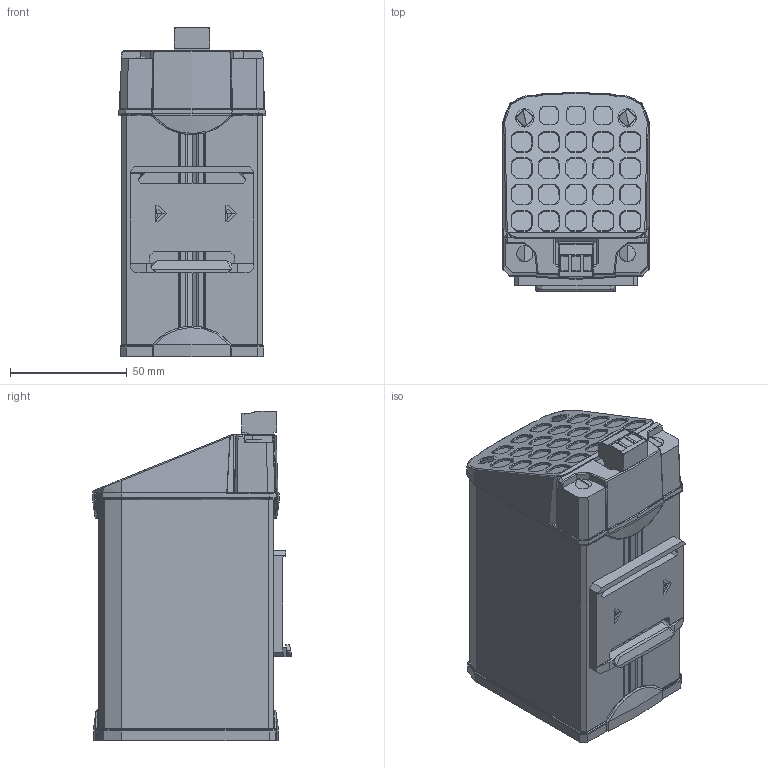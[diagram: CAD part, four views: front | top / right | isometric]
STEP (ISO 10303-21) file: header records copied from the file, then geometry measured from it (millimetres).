
FILE_DESCRIPTION(/* description */ (''),/* implementation_level */ '2;1');
FILE_NAME(/* name */ 'HTM045-60-80-S080X-S100X-1',/* time_stamp */ '2026-02-06T08:42:38+01:00',/* author */ (''),/* organization */ (''),/* preprocessor_version */ 'ST-DEVELOPER v16.5',/* originating_system */ 'Rhino 7.38',/* authorisation */ '');
FILE_SCHEMA (('AUTOMOTIVE_DESIGN'));
Length unit declared in the file: millimetre
Products named in the file (13): Document; HTM045-60-80-1; Base plastica CLIP_CLIP-01 semplificata; Tappo Plastico di estremità_tappo semplificato; Rivetto; Vite ST3.5_semplificata; Profilo dissipatore deformato_Lung.100mm semplificato; Vite ST3.5x38_semplificata; DT-04537DSI_Metallica semplificata; Copertura Alluminio_Lungh. L100 mm semplificata2; 2EDGKF-5.0-03P-04_semplificata; DT-04539DSI_Semplificata; Copertura Alluminio_Lungh. L100 mm semplificata
Assembly tree (19 placements, depth 3):
  Document
    HTM045-60-80-1
      Base plastica CLIP_CLIP-01 semplificata
      Tappo Plastico di estremità_tappo semplificato
      Rivetto  x2
      Vite ST3.5_semplificata  x6
      Profilo dissipatore deformato_Lung.100mm semplificato
      Vite ST3.5x38_semplificata  x2
      DT-04537DSI_Metallica semplificata
      Copertura Alluminio_Lungh. L100 mm semplificata2
      2EDGKF-5.0-03P-04_semplificata
      DT-04539DSI_Semplificata
      Copertura Alluminio_Lungh. L100 mm semplificata
Bounding box: 62.7 x 85.28 x 141 mm (x, y, z)
Volume: 550997.1 mm3; surface area: 105617.1 mm2
Topology: 18 solids, 18 shells, 1254 faces, 3170 edges, 1994 vertices
Faces by surface type: plane 487, bspline 480, cylinder 287
Entity records: 45033 total; most frequent: CARTESIAN_POINT 24788, ORIENTED_EDGE 6156, EDGE_CURVE 3078, B_SPLINE_CURVE_WITH_KNOTS 2002, VERTEX_POINT 1940, EDGE_LOOP 1298, ADVANCED_FACE 1203, FACE_OUTER_BOUND 1203
